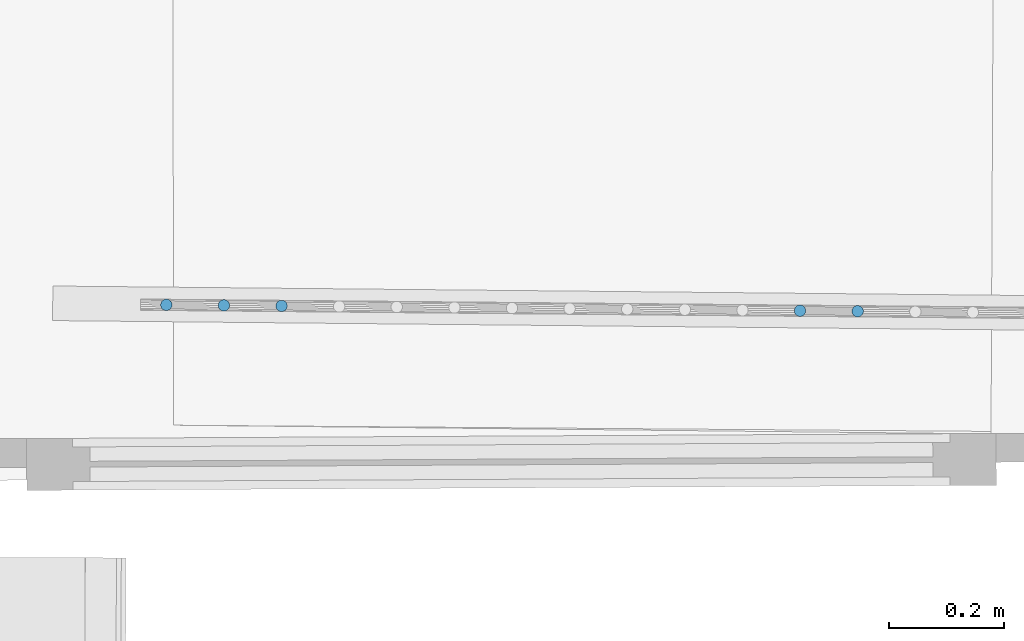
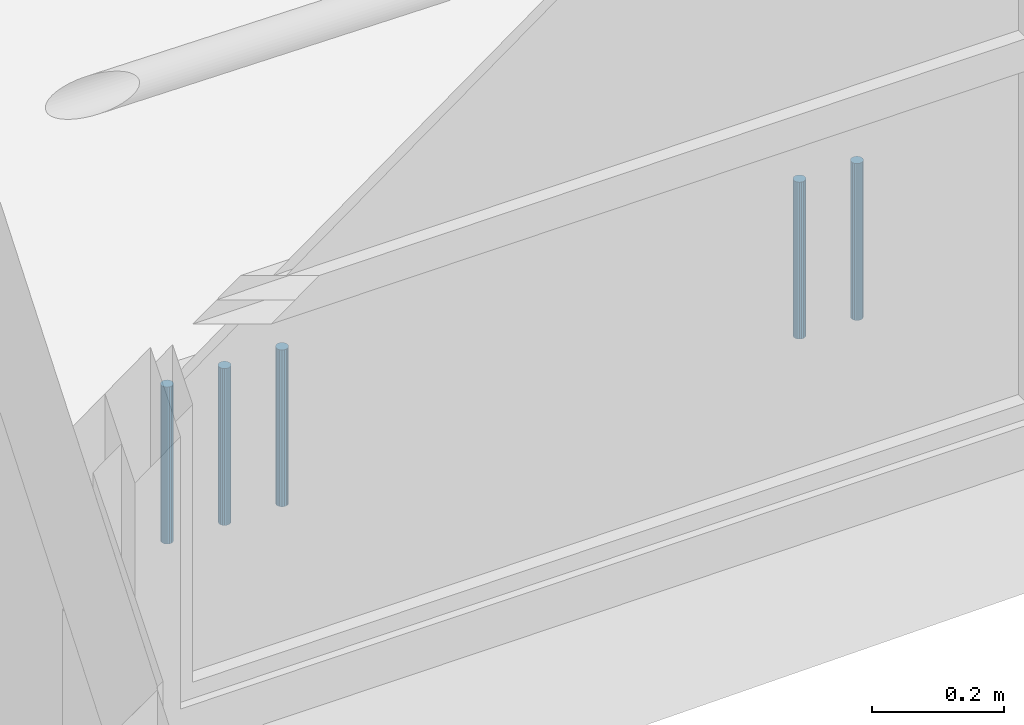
# One storey, part 29 of 72: 5 members, 1 element without a shape of its own.
"""IFC2X3 building model written with IfcOpenShell, lengths in centimetres."""

from ifc_helpers import new_model, entity, si_unit, converted_unit, direction, frame, origin, origin_with_axes, place, context, subcontext, project, spatial, faceted_brep, material, type_object, element, aggregate, save


model = new_model("IFC2X3")

# Units and contexts
model_context = context("Model", 3, precision=0.0001, world=origin(), true_north=direction((0.225632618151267, 0.974212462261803, 0.0)))
body_context = subcontext(model_context, "Body", "Model", "MODEL_VIEW")
ifc_project = project(units=[si_unit("LENGTHUNIT", "METRE", prefix="CENTI"), si_unit("AREAUNIT", "SQUARE_METRE", prefix="CENTI"), si_unit("VOLUMEUNIT", "CUBIC_METRE", prefix="CENTI"), converted_unit("PLANEANGLEUNIT", "DEGREE", entity("IfcRatioMeasure", 0.0174532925), si_unit("PLANEANGLEUNIT", "RADIAN"), dimensions=[0, 0, 0, 0, 0, 0, 0])], contexts=[model_context])

# Site, building, storey
site_placement = place(None, origin_with_axes())
site = spatial("IfcSite", under=ifc_project, at=site_placement, Name="Default Site", CompositionType="ELEMENT")
building_placement = place(site_placement, origin_with_axes())
building = spatial("IfcBuilding", under=site, at=building_placement, Name="Default Building", CompositionType="ELEMENT")
storey_placement = place(building_placement, frame((0.0, 0.0, 853.910374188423), z_axis=(0.0, 0.0, 1.0), x_axis=(1.0, 0.0, 0.0)))
storey = spatial("IfcBuildingStorey", under=building, at=storey_placement, Name="Niveau 2", CompositionType="ELEMENT", Elevation=853.910374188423)

# Assembly, members
building_element_proxy_type = type_object("IfcBuildingElementProxyType", Name="Type Object", PredefinedType="NOTDEFINED")
assembly_placement = place(storey_placement, frame((1081.02208703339, -852.418210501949, 11.9999999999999), z_axis=(0.0, 0.0, 1.0), x_axis=(-0.999957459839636, 0.00922380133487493, 0.0)))
assembly = element("IfcElementAssembly", 1, at=assembly_placement, inside=storey, type_object=building_element_proxy_type, Name="Panneau 1702017", ObjectType="Precast panel", PredefinedType="USERDEFINED")
ifc_material = material(Name="Aluminium satiné")
member_1_placement = place(assembly_placement, frame((37.4396920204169, 0.342020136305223, 31.000000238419), z_axis=(0.0, 0.0, 1.0), x_axis=(0.499995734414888, -0.866027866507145, 0.0)))
member_1 = element("IfcMember", 2, at=member_1_placement, material=ifc_material, Name="4294967186", context=body_context, shape_type="Brep", body=[
    faceted_brep([(-4.30211422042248e-13, -8.88178419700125e-14, 3.33066907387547e-13), (-0.347295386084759, -1.0547118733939e-13, 3.33066907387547e-13), (-0.673647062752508, -0.118784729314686, 3.33066907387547e-13), (-0.939691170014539, -0.342025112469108, 3.33066907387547e-13), (-1.1133373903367, -0.642792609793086, 3.33066907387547e-13), (-1.17364232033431, -0.984811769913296, 3.33066907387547e-13), (-1.1133337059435, -1.32683238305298, 3.33066907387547e-13), (-0.939684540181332, -1.62759988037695, 3.33066907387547e-13), (-0.673639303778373, -1.85083688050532, 3.33066907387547e-13), (-0.347286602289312, -1.96961709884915, 3.33066907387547e-13), (1.02738984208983e-05, -1.96961451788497, 3.33066907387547e-13), (0.326361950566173, -1.8508297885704, 3.33066907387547e-13), (0.592404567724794, -1.62759198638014, 3.33066907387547e-13), (0.766050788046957, -1.32682448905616, 3.33066907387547e-13), (0.826357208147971, -0.984802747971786, 3.33066907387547e-13), (0.76604859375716, -0.642782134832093, 3.33066907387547e-13), (0.592397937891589, -0.34201721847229, 3.33066907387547e-13), (0.32635270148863, -0.118780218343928, 3.33066907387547e-13), (0.32635270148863, -0.118780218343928, -29.0000002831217), (0.592397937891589, -0.34201721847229, -29.0000002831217), (0.76604859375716, -0.642782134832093, -29.0000002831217), (0.826357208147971, -0.984802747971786, -29.0000002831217), (0.766050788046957, -1.32682448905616, -29.0000002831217), (0.592404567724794, -1.62759198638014, -29.0000002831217), (0.326361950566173, -1.8508297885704, -29.0000002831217), (1.02738984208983e-05, -1.96961451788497, -29.0000002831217), (-0.347286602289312, -1.96961709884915, -29.0000002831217), (-0.673639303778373, -1.85083688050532, -29.0000002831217), (-0.939684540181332, -1.62759988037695, -29.0000002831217), (-1.1133337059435, -1.32683238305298, -29.0000002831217), (-1.17364232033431, -0.984811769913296, -29.0000002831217), (-1.1133373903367, -0.642792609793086, -29.0000002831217), (-0.939691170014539, -0.342025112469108, -29.0000002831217), (-0.673647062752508, -0.118784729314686, -29.0000002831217), (-0.347295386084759, -1.0547118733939e-13, -29.0000002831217), (-4.30211422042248e-13, -8.88178419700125e-14, -29.0000002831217), (0.592398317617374, -0.3420167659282, 3.33066907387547e-13), (0.592398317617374, -0.3420167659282, -29.0000002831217), (0.76604711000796, -0.642782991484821, 3.33066907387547e-13), (0.76604711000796, -0.642782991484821, -29.0000002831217), (0.826357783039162, -0.984802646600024, 3.33066907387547e-13), (0.826357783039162, -0.984802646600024, -29.0000002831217), (0.766051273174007, -1.32682457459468, 3.33066907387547e-13), (0.766051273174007, -1.32682457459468, -29.0000002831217), (0.592404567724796, -1.62759198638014, 3.33066907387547e-13), (0.592404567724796, -1.62759198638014, -29.0000002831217), (0.32636228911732, -1.85083019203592, 3.33066907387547e-13), (0.32636228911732, -1.85083019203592, -29.0000002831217), (1.00742379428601e-05, -1.96961396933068, 3.33066907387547e-13), (1.00742379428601e-05, -1.96961396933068, -29.0000002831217), (-0.347286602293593, -1.9696162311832, 3.33066907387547e-13), (-0.347286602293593, -1.9696162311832, -29.0000002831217), (-0.673639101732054, -1.85083632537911, 3.33066907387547e-13), (-0.673639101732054, -1.85083632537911, -29.0000002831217), (-0.93968491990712, -1.62760033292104, 3.33066907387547e-13), (-0.93968491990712, -1.62760033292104, -29.0000002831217), (-1.11333445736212, -1.32683281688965, 3.33066907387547e-13), (-1.11333445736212, -1.32683281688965, -29.0000002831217), (-1.1736428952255, -0.984811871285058, 3.33066907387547e-13), (-1.1736428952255, -0.984811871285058, -29.0000002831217), (-1.11333687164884, -0.642792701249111, 3.33066907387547e-13), (-1.11333687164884, -0.642792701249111, -29.0000002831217), (-0.939691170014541, -0.342025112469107, 3.33066907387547e-13), (-0.939691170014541, -0.342025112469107, -29.0000002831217), (-0.673646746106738, -0.118785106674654, 3.33066907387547e-13), (-0.673646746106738, -0.118785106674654, -29.0000002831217), (-0.347295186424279, -5.48554398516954e-07, 3.33066907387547e-13), (-0.347295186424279, -5.48554398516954e-07, -29.0000002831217), (-8.88228340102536e-12, 1.71329077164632e-06, 3.33066907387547e-13), (-8.88228340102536e-12, 1.71329077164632e-06, -29.0000002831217), (0.326352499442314, -0.118780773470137, 3.33066907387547e-13), (0.326352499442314, -0.118780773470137, -29.0000002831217)], [[[0, 1, 2, 3, 4, 5, 6, 7, 8, 9, 10, 11, 12, 13, 14, 15, 16, 17]], [[18, 19, 20, 21, 22, 23, 24, 25, 26, 27, 28, 29, 30, 31, 32, 33, 34, 35]], [[17, 36, 37, 18]], [[16, 38, 39, 19]], [[15, 40, 41, 20]], [[14, 42, 43, 21]], [[13, 44, 45, 22]], [[12, 46, 47, 23]], [[11, 48, 49, 24]], [[10, 50, 51, 25]], [[9, 52, 53, 26]], [[8, 54, 55, 27]], [[7, 56, 57, 28]], [[6, 58, 59, 29]], [[5, 60, 61, 30]], [[4, 62, 63, 31]], [[3, 64, 65, 32]], [[2, 66, 67, 33]], [[1, 68, 69, 34]], [[0, 70, 71, 35]]]),
])
member_2_placement = place(assembly_placement, frame((47.4396914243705, 0.342020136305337, 31.000000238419), z_axis=(0.0, 0.0, 1.0), x_axis=(0.499995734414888, -0.866027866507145, 0.0)))
member_2 = element("IfcMember", 3, at=member_2_placement, material=ifc_material, Name="4294967185", context=body_context, shape_type="Brep", body=[
    faceted_brep([(-3.80251385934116e-13, -5.55111512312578e-14, 3.33066907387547e-13), (-0.347295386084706, -7.21644966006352e-14, 3.33066907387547e-13), (-0.673647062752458, -0.118784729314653, 3.33066907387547e-13), (-0.939689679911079, -0.342022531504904, 3.33066907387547e-13), (-1.11333739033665, -0.642792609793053, 3.33066907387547e-13), (-1.17364232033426, -0.984811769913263, 3.33066907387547e-13), (-1.11333370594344, -1.32683238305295, 3.33066907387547e-13), (-0.939684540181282, -1.62759988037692, 3.33066907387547e-13), (-0.673637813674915, -1.85083429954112, 3.33066907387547e-13), (-0.347286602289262, -1.96961709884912, 3.33066907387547e-13), (1.02738984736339e-05, -1.96961451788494, 3.33066907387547e-13), (0.326361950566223, -1.85082978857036, 3.33066907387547e-13), (0.592404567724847, -1.62759198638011, 3.33066907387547e-13), (0.766052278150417, -1.32682190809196, 3.33066907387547e-13), (0.826357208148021, -0.984802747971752, 3.33066907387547e-13), (0.766048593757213, -0.642782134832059, 3.33066907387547e-13), (0.592397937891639, -0.342017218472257, 3.33066907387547e-13), (0.32635270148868, -0.118780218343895, 3.33066907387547e-13), (0.32635270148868, -0.118780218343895, -29.0000002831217), (0.592397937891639, -0.342017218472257, -29.0000002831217), (0.766048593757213, -0.642782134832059, -29.0000002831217), (0.826357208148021, -0.984802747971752, -29.0000002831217), (0.766052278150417, -1.32682190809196, -29.0000002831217), (0.592404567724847, -1.62759198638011, -29.0000002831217), (0.326361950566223, -1.85082978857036, -29.0000002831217), (1.02738984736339e-05, -1.96961451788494, -29.0000002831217), (-0.347286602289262, -1.96961709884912, -29.0000002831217), (-0.673637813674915, -1.85083429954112, -29.0000002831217), (-0.939684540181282, -1.62759988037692, -29.0000002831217), (-1.11333370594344, -1.32683238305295, -29.0000002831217), (-1.17364232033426, -0.984811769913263, -29.0000002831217), (-1.11333739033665, -0.642792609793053, -29.0000002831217), (-0.939689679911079, -0.342022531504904, -29.0000002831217), (-0.673647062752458, -0.118784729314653, -29.0000002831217), (-0.347295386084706, -7.21644966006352e-14, -29.0000002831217), (-3.80251385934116e-13, -5.55111512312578e-14, -29.0000002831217), (0.592398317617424, -0.342016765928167, 3.33066907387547e-13), (0.592398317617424, -0.342016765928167, -29.0000002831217), (0.766047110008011, -0.642782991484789, 3.33066907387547e-13), (0.766047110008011, -0.642782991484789, -29.0000002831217), (0.826357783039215, -0.984802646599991, 3.33066907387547e-13), (0.826357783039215, -0.984802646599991, -29.0000002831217), (0.766051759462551, -1.32682181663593, 3.33066907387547e-13), (0.766051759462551, -1.32682181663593, -29.0000002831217), (0.326362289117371, -1.85083019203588, 3.33066907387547e-13), (0.326362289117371, -1.85083019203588, -29.0000002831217), (1.00742379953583e-05, -1.96961396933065, 3.33066907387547e-13), (1.00742379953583e-05, -1.96961396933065, -29.0000002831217), (-0.347286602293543, -1.96961623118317, 3.33066907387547e-13), (-0.347286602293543, -1.96961623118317, -29.0000002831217), (-0.673638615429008, -1.85083650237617, 3.33066907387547e-13), (-0.673638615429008, -1.85083650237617, -29.0000002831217), (-0.9396830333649, -1.62759808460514, 3.33066907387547e-13), (-0.9396830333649, -1.62759808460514, -29.0000002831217), (-1.11333445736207, -1.32683281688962, 3.33066907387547e-13), (-1.11333445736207, -1.32683281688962, -29.0000002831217), (-1.17364289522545, -0.984811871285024, 3.33066907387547e-13), (-1.17364289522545, -0.984811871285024, -29.0000002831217), (-1.11333687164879, -0.642792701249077, 3.33066907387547e-13), (-1.11333687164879, -0.642792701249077, -29.0000002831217), (-0.93968967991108, -0.342022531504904, 3.33066907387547e-13), (-0.93968967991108, -0.342022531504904, -29.0000002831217), (-0.673647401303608, -0.11878432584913, 3.33066907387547e-13), (-0.673647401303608, -0.11878432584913, -29.0000002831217), (-0.347295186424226, -5.48554364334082e-07, 3.33066907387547e-13), (-0.347295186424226, -5.48554364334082e-07, -29.0000002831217), (-8.83232336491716e-12, 1.71329080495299e-06, 3.33066907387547e-13), (-8.83232336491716e-12, 1.71329080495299e-06, -29.0000002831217), (0.326352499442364, -0.118780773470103, 3.33066907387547e-13), (0.326352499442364, -0.118780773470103, -29.0000002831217)], [[[0, 1, 2, 3, 4, 5, 6, 7, 8, 9, 10, 11, 12, 13, 14, 15, 16, 17]], [[18, 19, 20, 21, 22, 23, 24, 25, 26, 27, 28, 29, 30, 31, 32, 33, 34, 35]], [[17, 36, 37, 18]], [[16, 38, 39, 19]], [[15, 40, 41, 20]], [[14, 42, 43, 21]], [[13, 12, 23, 22]], [[12, 44, 45, 23]], [[11, 46, 47, 24]], [[10, 48, 49, 25]], [[9, 50, 51, 26]], [[8, 52, 53, 27]], [[7, 54, 55, 28]], [[6, 56, 57, 29]], [[5, 58, 59, 30]], [[4, 60, 61, 31]], [[3, 62, 63, 32]], [[2, 64, 65, 33]], [[1, 66, 67, 34]], [[0, 68, 69, 35]]]),
])
member_3_placement = place(assembly_placement, frame((137.439692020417, 0.342020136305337, 31.000000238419), z_axis=(0.0, 0.0, 1.0), x_axis=(0.500008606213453, -0.866020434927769, 0.0)))
member_3 = element("IfcMember", 4, at=member_3_placement, material=ifc_material, Name="4294967176", context=body_context, shape_type="Brep", body=[
    faceted_brep([(-5.99520433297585e-13, -2.22044604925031e-13, 1.77635683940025e-13), (-0.347298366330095, -2.22044604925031e-13, 1.77635683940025e-13), (-0.67364882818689, -0.118774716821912, 1.77635683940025e-13), (-0.939693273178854, -0.342005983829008, 1.77635683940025e-13), (-1.1133484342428, -0.642778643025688, 1.77635683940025e-13), (-1.17365695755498, -0.984794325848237, 1.77635683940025e-13), (-1.11335640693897, -1.32682099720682, 1.77635683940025e-13), (-0.939707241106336, -1.62758333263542, 1.77635683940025e-13), (-0.673665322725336, -1.85082428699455, 1.77635683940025e-13), (-0.347314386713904, -1.9696093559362, 1.77635683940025e-13), (-2.19809514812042e-05, -1.96961967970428, 1.77635683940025e-13), (0.326334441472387, -1.85083463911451, 1.77635683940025e-13), (0.592378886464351, -1.62760337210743, 1.77635683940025e-13), (0.766034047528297, -1.32683071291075, 1.77635683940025e-13), (0.826342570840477, -0.984815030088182, 1.77635683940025e-13), (0.766036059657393, -0.642798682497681, 1.77635683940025e-13), (0.592392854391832, -0.342026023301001, 1.77635683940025e-13), (0.326350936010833, -0.118785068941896, 1.77635683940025e-13), (0.326350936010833, -0.118785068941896, -29.0000002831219), (0.592392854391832, -0.342026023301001, -29.0000002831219), (0.766036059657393, -0.642798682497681, -29.0000002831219), (0.826342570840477, -0.984815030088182, -29.0000002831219), (0.766034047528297, -1.32683071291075, -29.0000002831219), (0.592378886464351, -1.62760337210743, -29.0000002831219), (0.326334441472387, -1.85083463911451, -29.0000002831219), (-2.19809514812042e-05, -1.96961967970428, -29.0000002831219), (-0.347314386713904, -1.9696093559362, -29.0000002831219), (-0.673665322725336, -1.85082428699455, -29.0000002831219), (-0.939707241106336, -1.62758333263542, -29.0000002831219), (-1.11335640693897, -1.32682099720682, -29.0000002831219), (-1.17365695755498, -0.984794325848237, -29.0000002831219), (-1.1133484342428, -0.642778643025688, -29.0000002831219), (-0.939693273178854, -0.342005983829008, -29.0000002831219), (-0.67364882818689, -0.118774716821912, -29.0000002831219), (-0.347298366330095, -2.22044604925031e-13, -29.0000002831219), (-5.99520433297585e-13, -2.22044604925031e-13, -29.0000002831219), (0.592393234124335, -0.342025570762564, 1.77635683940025e-13), (0.592393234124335, -0.342025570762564, -29.0000002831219), (0.766039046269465, -0.642796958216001, 1.77635683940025e-13), (0.766039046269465, -0.642796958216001, -29.0000002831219), (0.826339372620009, -0.984815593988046, 1.77635683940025e-13), (0.826339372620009, -0.984815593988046, -29.0000002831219), (0.766032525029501, -1.32683044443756, 1.77635683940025e-13), (0.766032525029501, -1.32683044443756, -29.0000002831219), (0.592378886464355, -1.62760337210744, 1.77635683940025e-13), (0.592378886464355, -1.62760337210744, -29.0000002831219), (0.326335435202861, -1.8508358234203, 1.77635683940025e-13), (0.326335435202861, -1.8508358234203, -29.0000002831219), (-2.3490954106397e-05, -1.96961553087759, 1.77635683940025e-13), (-2.3490954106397e-05, -1.96961553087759, -29.0000002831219), (-0.347314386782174, -1.9696162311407, 1.77635683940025e-13), (-0.347314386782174, -1.9696162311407, -29.0000002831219), (-0.673665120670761, -1.85082373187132, 1.77635683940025e-13), (-0.673665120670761, -1.85082373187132, -29.0000002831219), (-0.93970762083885, -1.62758378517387, 1.77635683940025e-13), (-0.93970762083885, -1.62758378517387, -29.0000002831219), (-1.11335045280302, -1.32681755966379, 1.77635683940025e-13), (-1.11335045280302, -1.32681755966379, -29.0000002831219), (-1.17366130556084, -0.984795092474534, 1.77635683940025e-13), (-1.17366130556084, -0.984795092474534, -29.0000002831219), (-1.11334691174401, -0.642778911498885, 1.77635683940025e-13), (-1.11334691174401, -0.642778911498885, -29.0000002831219), (-0.939693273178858, -0.342005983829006, 1.77635683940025e-13), (-0.939693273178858, -0.342005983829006, -29.0000002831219), (-0.673649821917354, -0.118773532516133, 1.77635683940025e-13), (-0.673649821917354, -0.118773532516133, -29.0000002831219), (-0.347299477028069, 3.05171195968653e-06, 1.77635683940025e-13), (-0.347299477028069, 3.05171195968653e-06, -29.0000002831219), (-3.48438479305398e-11, -3.44862298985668e-06, 1.77635683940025e-13), (-3.48438479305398e-11, -3.44862298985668e-06, -29.0000002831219), (0.326350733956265, -0.118785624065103, 1.77635683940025e-13), (0.326350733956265, -0.118785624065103, -29.0000002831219)], [[[0, 1, 2, 3, 4, 5, 6, 7, 8, 9, 10, 11, 12, 13, 14, 15, 16, 17]], [[18, 19, 20, 21, 22, 23, 24, 25, 26, 27, 28, 29, 30, 31, 32, 33, 34, 35]], [[17, 36, 37, 18]], [[16, 38, 39, 19]], [[15, 40, 41, 20]], [[14, 42, 43, 21]], [[13, 44, 45, 22]], [[12, 46, 47, 23]], [[11, 48, 49, 24]], [[10, 50, 51, 25]], [[9, 52, 53, 26]], [[8, 54, 55, 27]], [[7, 56, 57, 28]], [[6, 58, 59, 29]], [[5, 60, 61, 30]], [[4, 62, 63, 31]], [[3, 64, 65, 32]], [[2, 66, 67, 33]], [[1, 68, 69, 34]], [[0, 70, 71, 35]]]),
])
member_4_placement = place(assembly_placement, frame((147.439694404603, 0.342020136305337, 31.000000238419), z_axis=(0.0, 0.0, 1.0), x_axis=(0.500008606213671, -0.866020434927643, 0.0)))
member_4 = element("IfcMember", 5, at=member_4_placement, material=ifc_material, Name="4294967175", context=body_context, shape_type="Brep", body=[
    faceted_brep([(-2.88657986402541e-13, -2.44249065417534e-13, 1.66533453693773e-13), (-0.347298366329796, -1.55431223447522e-13, 1.66533453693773e-13), (-0.673648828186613, -0.118774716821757, 1.66533453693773e-13), (-0.939699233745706, -0.342016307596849, 1.66533453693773e-13), (-1.11334843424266, -0.642778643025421, 1.66533453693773e-13), (-1.17365695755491, -0.984794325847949, 1.66533453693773e-13), (-1.113356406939, -1.32682099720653, 1.66533453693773e-13), (-0.939707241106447, -1.6275833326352, 1.66533453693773e-13), (-0.673665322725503, -1.85082428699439, 1.66533453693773e-13), (-0.347314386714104, -1.96960935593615, 1.66533453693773e-13), (-2.19809516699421e-05, -1.9696196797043, 1.66533453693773e-13), (0.326334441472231, -1.85083463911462, 1.66533453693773e-13), (0.592378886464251, -1.62760337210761, 1.66533453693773e-13), (0.766028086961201, -1.32684103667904, 1.66533453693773e-13), (0.826342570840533, -0.984815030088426, 1.66533453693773e-13), (0.766036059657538, -0.642798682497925, 1.66533453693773e-13), (0.592392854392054, -0.342026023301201, 1.66533453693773e-13), (0.326350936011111, -0.118785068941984, 1.66533453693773e-13), (0.326350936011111, -0.118785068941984, -29.0000002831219), (0.592392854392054, -0.342026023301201, -29.0000002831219), (0.766036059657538, -0.642798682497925, -29.0000002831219), (0.826342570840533, -0.984815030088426, -29.0000002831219), (0.766028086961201, -1.32684103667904, -29.0000002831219), (0.592378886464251, -1.62760337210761, -29.0000002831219), (0.326334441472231, -1.85083463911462, -29.0000002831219), (-2.19809516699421e-05, -1.9696196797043, -29.0000002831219), (-0.347314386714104, -1.96960935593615, -29.0000002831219), (-0.673665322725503, -1.85082428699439, -29.0000002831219), (-0.939707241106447, -1.6275833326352, -29.0000002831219), (-1.113356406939, -1.32682099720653, -29.0000002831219), (-1.17365695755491, -0.984794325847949, -29.0000002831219), (-1.11334843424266, -0.642778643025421, -29.0000002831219), (-0.939699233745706, -0.342016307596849, -29.0000002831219), (-0.673648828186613, -0.118774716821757, -29.0000002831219), (-0.347298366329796, -1.55431223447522e-13, -29.0000002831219), (-2.88657986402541e-13, -2.44249065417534e-13, -29.0000002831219), (0.592393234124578, -0.342025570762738, 1.66533453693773e-13), (0.592393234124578, -0.342025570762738, -29.0000002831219), (0.766039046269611, -0.642796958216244, 1.66533453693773e-13), (0.766039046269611, -0.642796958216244, -29.0000002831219), (0.826339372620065, -0.98481559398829, 1.66533453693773e-13), (0.826339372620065, -0.98481559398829, -29.0000002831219), (0.766030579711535, -1.32684147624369, 1.66533453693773e-13), (0.766030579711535, -1.32684147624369, -29.0000002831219), (0.592378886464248, -1.62760337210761, 1.66533453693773e-13), (0.592378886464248, -1.62760337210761, -29.0000002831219), (0.326335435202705, -1.85083582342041, 1.66533453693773e-13), (0.326335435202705, -1.85083582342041, -29.0000002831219), (-2.34909542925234e-05, -1.96961553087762, 1.66533453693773e-13), (-2.34909542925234e-05, -1.96961553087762, -29.0000002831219), (-0.347314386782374, -1.96961623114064, 1.66533453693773e-13), (-0.347314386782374, -1.96961623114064, -29.0000002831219), (-0.673665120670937, -1.85082373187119, 1.66533453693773e-13), (-0.673665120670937, -1.85082373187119, -29.0000002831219), (-0.93970762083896, -1.62758378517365, 1.66533453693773e-13), (-0.93970762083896, -1.62758378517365, -29.0000002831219), (-1.11335045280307, -1.32681755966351, 1.66533453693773e-13), (-1.11335045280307, -1.32681755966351, -29.0000002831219), (-1.17366130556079, -0.984795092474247, 1.66533453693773e-13), (-1.17366130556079, -0.984795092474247, -29.0000002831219), (-1.11334691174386, -0.64277891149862, 1.66533453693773e-13), (-1.11334691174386, -0.64277891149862, -29.0000002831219), (-0.939699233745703, -0.34201630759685, 1.66533453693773e-13), (-0.939699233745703, -0.34201630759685, -29.0000002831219), (-0.673647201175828, -0.118776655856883, 1.66533453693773e-13), (-0.673647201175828, -0.118776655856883, -29.0000002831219), (-0.347299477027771, 3.05171202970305e-06, 1.66533453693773e-13), (-0.347299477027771, 3.05171202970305e-06, -29.0000002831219), (-3.45329863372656e-11, -3.44862301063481e-06, 1.66533453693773e-13), (-3.45329863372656e-11, -3.44862301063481e-06, -29.0000002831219), (0.326350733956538, -0.118785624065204, 1.66533453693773e-13), (0.326350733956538, -0.118785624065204, -29.0000002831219)], [[[0, 1, 2, 3, 4, 5, 6, 7, 8, 9, 10, 11, 12, 13, 14, 15, 16, 17]], [[18, 19, 20, 21, 22, 23, 24, 25, 26, 27, 28, 29, 30, 31, 32, 33, 34, 35]], [[17, 36, 37, 18]], [[16, 38, 39, 19]], [[15, 40, 41, 20]], [[14, 42, 43, 21]], [[13, 44, 45, 22]], [[12, 46, 47, 23]], [[11, 48, 49, 24]], [[10, 50, 51, 25]], [[9, 52, 53, 26]], [[8, 54, 55, 27]], [[7, 56, 57, 28]], [[6, 58, 59, 29]], [[5, 60, 61, 30]], [[4, 62, 63, 31]], [[3, 64, 65, 32]], [[2, 66, 67, 33]], [[1, 68, 69, 34]], [[0, 70, 71, 35]]]),
])
member_5_placement = place(assembly_placement, frame((157.439696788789, 0.342020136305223, 31.000000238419), z_axis=(0.0, 0.0, 1.0), x_axis=(0.500008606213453, -0.866020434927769, 0.0)))
member_5 = element("IfcMember", 6, at=member_5_placement, material=ifc_material, Name="4294967174", context=body_context, shape_type="Brep", body=[
    faceted_brep([(-3.21964677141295e-13, -2.66453525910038e-13, 1.77635683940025e-13), (-0.347298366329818, -2.66453525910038e-13, 1.77635683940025e-13), (-0.673648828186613, -0.118774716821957, 1.77635683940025e-13), (-0.93969923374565, -0.342016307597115, 1.77635683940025e-13), (-1.11334843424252, -0.64277864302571, 1.77635683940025e-13), (-1.17366291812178, -0.984804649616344, 1.77635683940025e-13), (-1.11335640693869, -1.32682099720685, 1.77635683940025e-13), (-0.939713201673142, -1.62759365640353, 1.77635683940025e-13), (-0.673671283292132, -1.85083461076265, 1.77635683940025e-13), (-0.347320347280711, -1.9696196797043, 1.77635683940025e-13), (-2.19809512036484e-05, -1.9696196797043, 1.77635683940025e-13), (0.326328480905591, -1.85084496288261, 1.77635683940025e-13), (0.592378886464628, -1.62760337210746, 1.77635683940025e-13), (0.766028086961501, -1.32684103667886, 1.77635683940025e-13), (0.826342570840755, -0.984815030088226, 1.77635683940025e-13), (0.766036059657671, -0.642798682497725, 1.77635683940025e-13), (0.59239285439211, -0.342026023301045, 1.77635683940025e-13), (0.326350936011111, -0.118785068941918, 1.77635683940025e-13), (0.326350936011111, -0.118785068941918, -29.0000002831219), (0.59239285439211, -0.342026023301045, -29.0000002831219), (0.766036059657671, -0.642798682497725, -29.0000002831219), (0.826342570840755, -0.984815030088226, -29.0000002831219), (0.766028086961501, -1.32684103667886, -29.0000002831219), (0.592378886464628, -1.62760337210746, -29.0000002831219), (0.326328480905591, -1.85084496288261, -29.0000002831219), (-2.19809512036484e-05, -1.9696196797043, -29.0000002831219), (-0.347320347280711, -1.9696196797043, -29.0000002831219), (-0.673671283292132, -1.85083461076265, -29.0000002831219), (-0.939713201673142, -1.62759365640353, -29.0000002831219), (-1.11335640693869, -1.32682099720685, -29.0000002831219), (-1.17366291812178, -0.984804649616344, -29.0000002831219), (-1.11334843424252, -0.64277864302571, -29.0000002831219), (-0.93969923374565, -0.342016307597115, -29.0000002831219), (-0.673648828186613, -0.118774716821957, -29.0000002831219), (-0.347298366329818, -2.66453525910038e-13, -29.0000002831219), (-3.21964677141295e-13, -2.66453525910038e-13, -29.0000002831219), (0.592393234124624, -0.342025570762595, 1.77635683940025e-13), (0.592393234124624, -0.342025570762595, -29.0000002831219), (0.766039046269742, -0.642796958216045, 1.77635683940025e-13), (0.766039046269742, -0.642796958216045, -29.0000002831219), (0.826339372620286, -0.98481559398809, 1.77635683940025e-13), (0.826339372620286, -0.98481559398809, -29.0000002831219), (0.766030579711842, -1.32684147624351, 1.77635683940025e-13), (0.766030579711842, -1.32684147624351, -29.0000002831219), (0.592378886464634, -1.62760337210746, 1.77635683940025e-13), (0.592378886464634, -1.62760337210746, -29.0000002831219), (0.326326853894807, -1.85084302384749, 1.77635683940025e-13), (0.326326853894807, -1.85084302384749, -29.0000002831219), (-2.0870253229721e-05, -1.96962273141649, 1.77635683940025e-13), (-2.0870253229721e-05, -1.96962273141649, -29.0000002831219), (-0.347320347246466, -1.96961623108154, 1.77635683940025e-13), (-0.347320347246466, -1.96961623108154, -29.0000002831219), (-0.673671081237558, -1.85083405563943, 1.77635683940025e-13), (-0.673671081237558, -1.85083405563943, -29.0000002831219), (-0.939713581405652, -1.62759410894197, 1.77635683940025e-13), (-0.939713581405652, -1.62759410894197, -29.0000002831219), (-1.11335939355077, -1.32682272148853, 1.77635683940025e-13), (-1.11335939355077, -1.32682272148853, -29.0000002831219), (-1.17365971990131, -0.98480408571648, 1.77635683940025e-13), (-1.17365971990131, -0.98480408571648, -29.0000002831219), (-1.11335092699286, -0.642778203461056, 1.77635683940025e-13), (-1.11335092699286, -0.642778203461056, -29.0000002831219), (-0.939699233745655, -0.342016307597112, 1.77635683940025e-13), (-0.939699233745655, -0.342016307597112, -29.0000002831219), (-0.673647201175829, -0.118776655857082, 1.77635683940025e-13), (-0.673647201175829, -0.118776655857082, -29.0000002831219), (-0.347299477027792, 3.05171191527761e-06, 1.77635683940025e-13), (-0.347299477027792, 3.05171191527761e-06, -29.0000002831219), (-3.45662921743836e-11, -3.4486230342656e-06, 1.77635683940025e-13), (-3.45662921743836e-11, -3.4486230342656e-06, -29.0000002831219), (0.326350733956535, -0.118785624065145, 1.77635683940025e-13), (0.326350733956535, -0.118785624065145, -29.0000002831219)], [[[0, 1, 2, 3, 4, 5, 6, 7, 8, 9, 10, 11, 12, 13, 14, 15, 16, 17]], [[18, 19, 20, 21, 22, 23, 24, 25, 26, 27, 28, 29, 30, 31, 32, 33, 34, 35]], [[17, 36, 37, 18]], [[16, 38, 39, 19]], [[15, 40, 41, 20]], [[14, 42, 43, 21]], [[13, 44, 45, 22]], [[12, 46, 47, 23]], [[11, 48, 49, 24]], [[10, 50, 51, 25]], [[9, 52, 53, 26]], [[8, 54, 55, 27]], [[7, 56, 57, 28]], [[6, 58, 59, 29]], [[5, 60, 61, 30]], [[4, 62, 63, 31]], [[3, 64, 65, 32]], [[2, 66, 67, 33]], [[1, 68, 69, 34]], [[0, 70, 71, 35]]]),
])
aggregate(assembly, [member_1, member_2, member_3, member_4, member_5])

save(model, "model.ifc")
